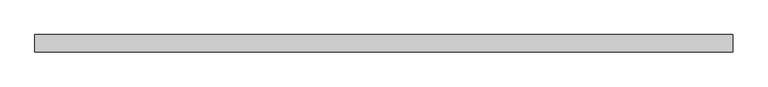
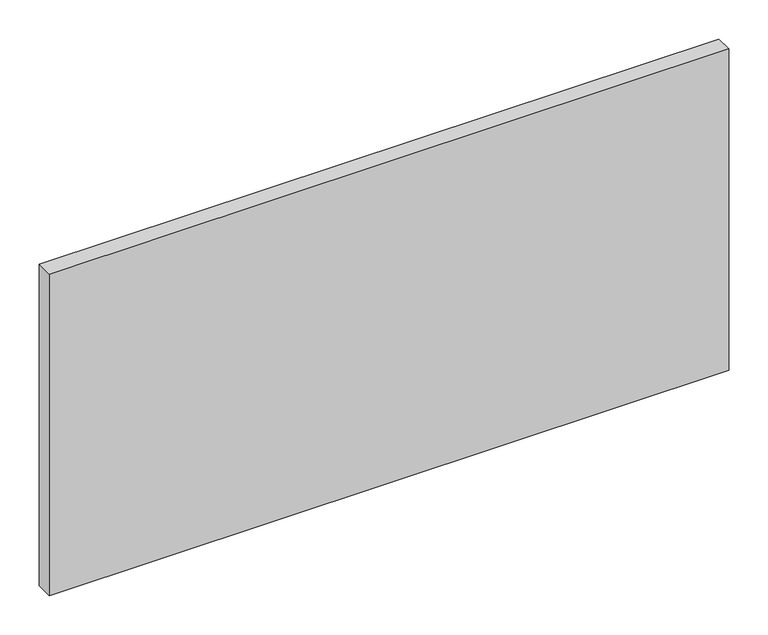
"""IFC4 building model written with IfcOpenShell, lengths in millimetres: plate geometry, 系统嵌板 : 玻璃."""

from ifc_helpers import new_model, si_unit, origin, origin_with_axes, place, context, project, spatial, polyline, outline, extrude, source, transform, mapped, element, save


def plate_7b5d22a9(model_context):
    return source(origin(), model_context, "Body", "SweptSolid", [
        extrude(outline(polyline([(500.0, -12.5), (-500.0, -12.5), (-500.0, 12.5), (500.0, 12.5), (500.0, -12.5)])), origin_with_axes(), (0.0, 0.0, 1.0), 500.0),
    ])


if __name__ == "__main__":
    model = new_model("IFC4")
    model_context = context("Model", 3, world=origin())
    ifc_project = project(units=[si_unit("LENGTHUNIT", "METRE", prefix="MILLI")], contexts=[model_context])
    site = spatial("IfcSite", under=ifc_project)
    building = spatial("IfcBuilding", under=site)
    placement = place(None, origin())
    plate_shape = plate_7b5d22a9(model_context)
    element("IfcPlate", 1, ObjectType="系统嵌板 : 玻璃", at=placement, inside=building, context=model_context, shape_type="MappedRepresentation", body=[
        mapped(plate_shape, transform((0.0, 0.0, 0.0), x_axis=(1.0, 0.0, 0.0), y_axis=(0.0, 1.0, 0.0), z_axis=(0.0, 0.0, 1.0))),
    ])
    save(model, "model.ifc")
